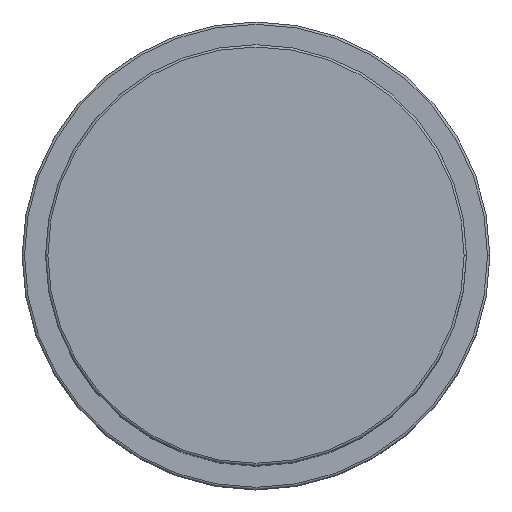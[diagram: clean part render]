
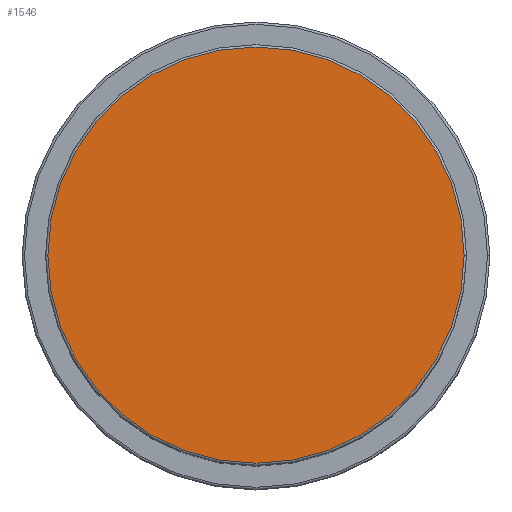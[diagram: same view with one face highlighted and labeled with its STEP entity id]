
A CAD part, top view. The second image highlights one B-rep face of the part: STEP entity #1546.
In plain terms, the highlighted planar face has unit normal (0, 0, 1).
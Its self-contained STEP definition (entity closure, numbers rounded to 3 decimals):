
#24 = EDGE_CURVE ( 'NONE', #771, #1874, #395, .T. ) ;
#121 = DIRECTION ( 'NONE',  ( 1., 0., 0. ) ) ;
#311 = DIRECTION ( 'NONE',  ( 0., 0., 1. ) ) ;
#330 = AXIS2_PLACEMENT_3D ( 'NONE', #1502, #311, #1053 ) ;
#395 = CIRCLE ( 'NONE', #1377, 44.5 ) ;
#573 = CARTESIAN_POINT ( 'NONE',  ( 0., 0., 107. ) ) ;
#737 = DIRECTION ( 'NONE',  ( 0., 0., 1. ) ) ;
#771 = VERTEX_POINT ( 'NONE', #884 ) ;
#791 = CARTESIAN_POINT ( 'NONE',  ( 0., 0., 107. ) ) ;
#884 = CARTESIAN_POINT ( 'NONE',  ( 44.5, 0., 107. ) ) ;
#936 = CIRCLE ( 'NONE', #1778, 44.5 ) ;
#1053 = DIRECTION ( 'NONE',  ( 1., 0., 0. ) ) ;
#1079 = ORIENTED_EDGE ( 'NONE', *, *, #1181, .T. ) ;
#1181 = EDGE_CURVE ( 'NONE', #1874, #771, #936, .T. ) ;
#1261 = DIRECTION ( 'NONE',  ( 0., 0., 1. ) ) ;
#1275 = EDGE_LOOP ( 'NONE', ( #1652, #1079 ) ) ;
#1377 = AXIS2_PLACEMENT_3D ( 'NONE', #573, #737, #121 ) ;
#1502 = CARTESIAN_POINT ( 'NONE',  ( 0., 0., 107. ) ) ;
#1546 = ADVANCED_FACE ( 'NONE', ( #1740 ), #1987, .T. ) ;
#1652 = ORIENTED_EDGE ( 'NONE', *, *, #24, .T. ) ;
#1740 = FACE_OUTER_BOUND ( 'NONE', #1275, .T. ) ;
#1778 = AXIS2_PLACEMENT_3D ( 'NONE', #791, #1261, #1903 ) ;
#1874 = VERTEX_POINT ( 'NONE', #1904 ) ;
#1903 = DIRECTION ( 'NONE',  ( 1., 0., 0. ) ) ;
#1904 = CARTESIAN_POINT ( 'NONE',  ( -44.5, 0., 107. ) ) ;
#1987 = PLANE ( 'NONE',  #330 ) ;
